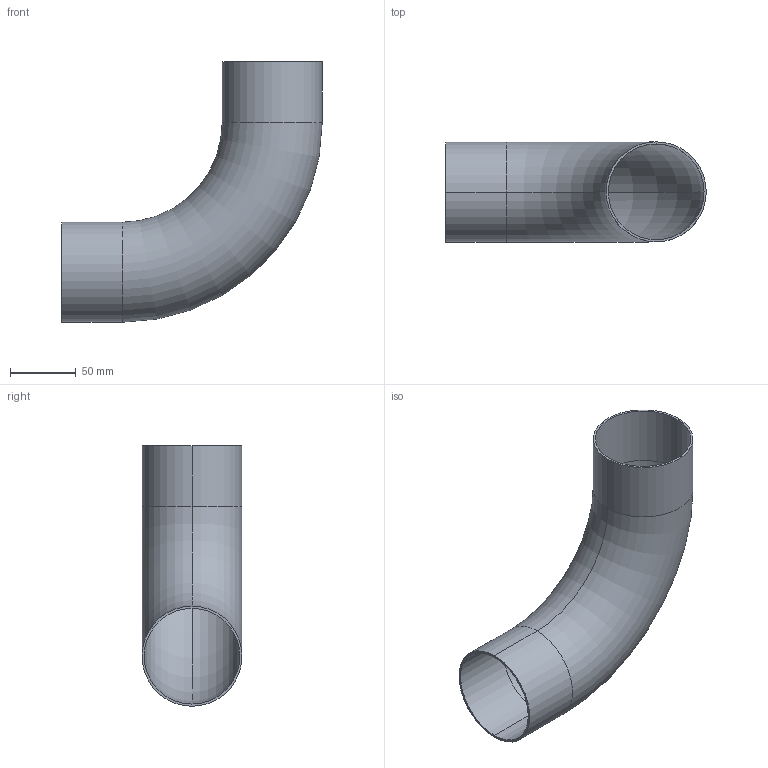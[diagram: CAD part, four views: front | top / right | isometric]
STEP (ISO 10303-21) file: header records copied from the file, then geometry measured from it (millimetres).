
FILE_DESCRIPTION (( 'STEP AP203' ), '1' );
FILE_NAME ('E2S3.0.STEP', '2018-04-30T18:01:14', ( 'vneprd' ), ( 'Microsoft' ), 'SwSTEP 2.0', 'SolidWorks 2014', '' );
FILE_SCHEMA (( 'CONFIG_CONTROL_DESIGN' ));
Length unit declared in the file: inch
Products named in the file (1): E2S3.0
Bounding box: 198.42 x 76.2 x 198.42 mm (x, y, z)
Volume: 105015.9 mm3; surface area: 127988.3 mm2
Topology: 1 solids, 1 shells, 14 faces, 28 edges, 16 vertices
Faces by surface type: cylinder 8, torus 4, plane 2
Entity records: 451 total; most frequent: DIRECTION 78, CARTESIAN_POINT 59, ORIENTED_EDGE 56, AXIS2_PLACEMENT_3D 35, EDGE_CURVE 28, CIRCLE 20, VERTEX_POINT 16, EDGE_LOOP 16
